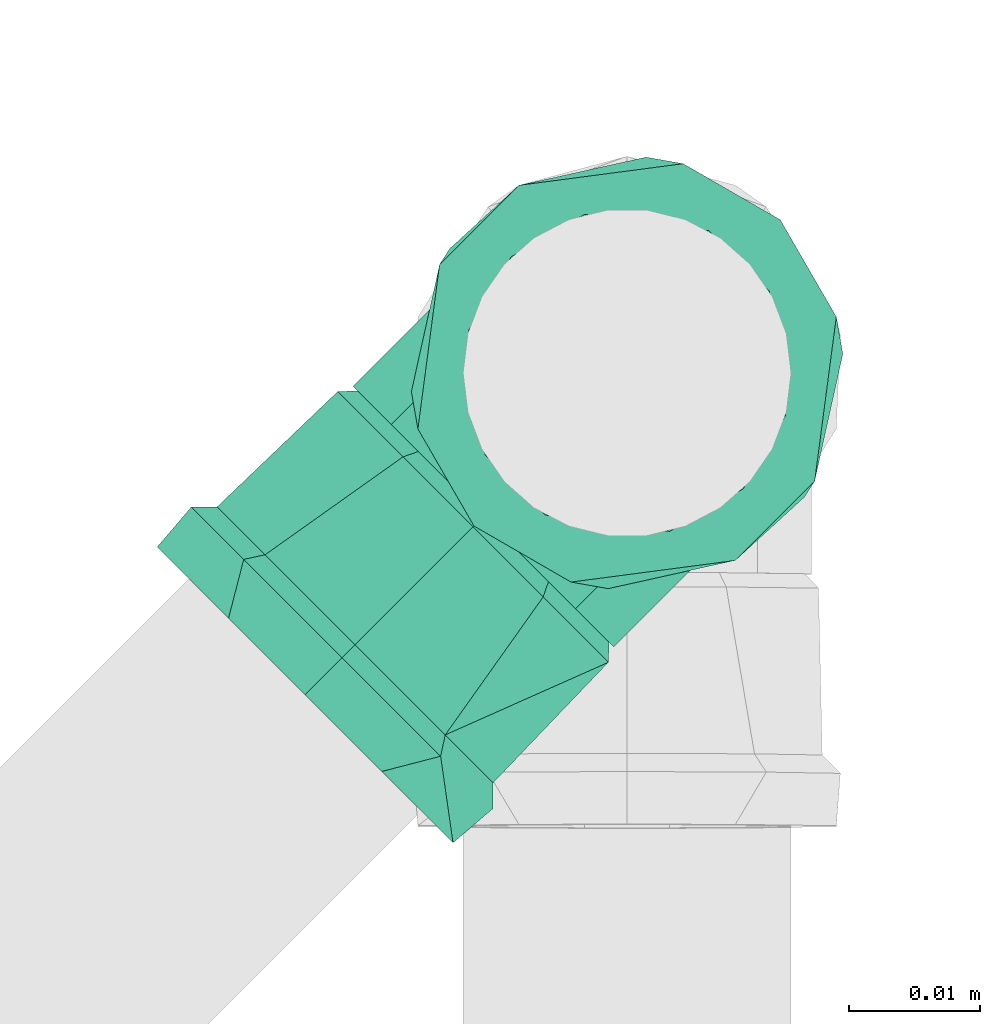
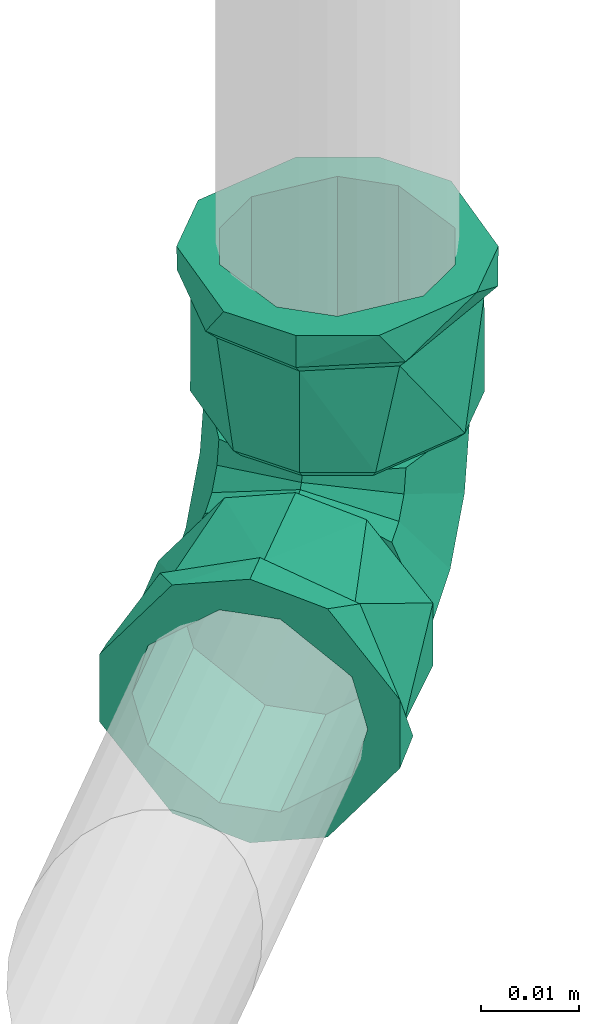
# One storey, part 386 of 589: 1 flow fitting.
"""IFC2X3 building model written with IfcOpenShell, lengths in millimetres."""

from ifc_helpers import new_model, entity, si_unit, converted_unit, derived_unit, direction, frame, origin, place, context, subcontext, project, spatial, faceted_brep, source, transform, mapped, material, type_object, type_shapes, element, save


model = new_model("IFC2X3")

# Units and contexts
model_context = context("Model", 3, precision=0.01, world=origin(), true_north=direction((6.123031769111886e-17, 1.0)))
body_context = subcontext(model_context, "Body", "Model", "MODEL_VIEW")
ifc_project = project(units=[si_unit("LENGTHUNIT", "METRE", prefix="MILLI"), si_unit("AREAUNIT", "SQUARE_METRE"), si_unit("VOLUMEUNIT", "CUBIC_METRE"), converted_unit("PLANEANGLEUNIT", "DEGREE", entity("IfcRatioMeasure", 0.017453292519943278), si_unit("PLANEANGLEUNIT", "RADIAN"), dimensions=[0, 0, 0, 0, 0, 0, 0]), si_unit("MASSUNIT", "GRAM", prefix="KILO"), derived_unit("MASSDENSITYUNIT", [(si_unit("MASSUNIT", "GRAM", prefix="KILO"), 1), (si_unit("LENGTHUNIT", "METRE"), -3)]), derived_unit("IONCONCENTRATIONUNIT", [(si_unit("MASSUNIT", "GRAM", prefix="KILO"), 1), (si_unit("LENGTHUNIT", "METRE"), -3)]), derived_unit("MOMENTOFINERTIAUNIT", [(si_unit("LENGTHUNIT", "METRE"), 4)]), si_unit("TIMEUNIT", "SECOND"), si_unit("FREQUENCYUNIT", "HERTZ"), si_unit("THERMODYNAMICTEMPERATUREUNIT", "DEGREE_CELSIUS"), derived_unit("THERMALTRANSMITTANCEUNIT", [(si_unit("MASSUNIT", "GRAM", prefix="KILO"), 1), (si_unit("THERMODYNAMICTEMPERATUREUNIT", "KELVIN"), -1), (si_unit("TIMEUNIT", "SECOND"), -3)]), derived_unit("THERMALCONDUCTANCEUNIT", [(si_unit("MASSUNIT", "GRAM", prefix="KILO"), 1), (si_unit("THERMODYNAMICTEMPERATUREUNIT", "KELVIN"), -1), (si_unit("TIMEUNIT", "SECOND"), -3), (si_unit("LENGTHUNIT", "METRE"), 1)]), derived_unit("VOLUMETRICFLOWRATEUNIT", [(si_unit("LENGTHUNIT", "METRE"), 3), (si_unit("TIMEUNIT", "SECOND"), -1)]), derived_unit("MASSFLOWRATEUNIT", [(si_unit("MASSUNIT", "GRAM", prefix="KILO"), 1), (si_unit("TIMEUNIT", "SECOND"), -1)]), derived_unit("ROTATIONALFREQUENCYUNIT", [(si_unit("TIMEUNIT", "SECOND"), -1)]), si_unit("ELECTRICCURRENTUNIT", "AMPERE"), si_unit("ELECTRICVOLTAGEUNIT", "VOLT"), si_unit("POWERUNIT", "WATT"), si_unit("FORCEUNIT", "NEWTON", prefix="KILO"), si_unit("ILLUMINANCEUNIT", "LUX"), si_unit("LUMINOUSFLUXUNIT", "LUMEN"), si_unit("LUMINOUSINTENSITYUNIT", "CANDELA"), derived_unit("USERDEFINED", [(si_unit("MASSUNIT", "GRAM", prefix="KILO"), -1), (si_unit("LENGTHUNIT", "METRE"), -2), (si_unit("TIMEUNIT", "SECOND"), 3), (si_unit("LUMINOUSFLUXUNIT", "LUMEN"), 1)]), derived_unit("USERDEFINED", [(si_unit("MASSUNIT", "GRAM", prefix="KILO"), 1), (si_unit("TIMEUNIT", "SECOND"), -3), (si_unit("LENGTHUNIT", "METRE"), 3), (si_unit("ELECTRICCURRENTUNIT", "AMPERE"), -2)]), derived_unit("SOUNDPOWERUNIT", [(si_unit("MASSUNIT", "GRAM", prefix="KILO"), 1), (si_unit("TIMEUNIT", "SECOND"), -3), (si_unit("LENGTHUNIT", "METRE"), 2)]), derived_unit("SOUNDPRESSUREUNIT", [(si_unit("MASSUNIT", "GRAM", prefix="KILO"), 1), (si_unit("LENGTHUNIT", "METRE"), -1), (si_unit("TIMEUNIT", "SECOND"), -2)]), derived_unit("LINEARVELOCITYUNIT", [(si_unit("LENGTHUNIT", "METRE"), 1), (si_unit("TIMEUNIT", "SECOND"), -1)]), si_unit("PRESSUREUNIT", "PASCAL"), derived_unit("USERDEFINED", [(si_unit("MASSUNIT", "GRAM", prefix="KILO"), 1), (si_unit("LENGTHUNIT", "METRE"), -2), (si_unit("TIMEUNIT", "SECOND"), -2)]), derived_unit("LINEARFORCEUNIT", [(si_unit("MASSUNIT", "GRAM", prefix="KILO"), 1), (si_unit("TIMEUNIT", "SECOND"), -2)]), derived_unit("PLANARFORCEUNIT", [(si_unit("MASSUNIT", "GRAM", prefix="KILO"), 1), (si_unit("LENGTHUNIT", "METRE"), -1), (si_unit("TIMEUNIT", "SECOND"), -2)]), derived_unit("SPECIFICHEATCAPACITYUNIT", [(si_unit("THERMODYNAMICTEMPERATUREUNIT", "KELVIN"), -1), (si_unit("LENGTHUNIT", "METRE"), 2), (si_unit("TIMEUNIT", "SECOND"), -2)]), derived_unit("HEATINGVALUEUNIT", [(si_unit("LENGTHUNIT", "METRE"), 2), (si_unit("TIMEUNIT", "SECOND"), -2)]), derived_unit("VAPORPERMEABILITYUNIT", [(si_unit("LENGTHUNIT", "METRE"), -1), (si_unit("TIMEUNIT", "SECOND"), 1)]), derived_unit("DYNAMICVISCOSITYUNIT", [(si_unit("MASSUNIT", "GRAM", prefix="KILO"), 1), (si_unit("TIMEUNIT", "SECOND"), -1), (si_unit("LENGTHUNIT", "METRE"), -1)]), derived_unit("THERMALEXPANSIONCOEFFICIENTUNIT", [(si_unit("THERMODYNAMICTEMPERATUREUNIT", "KELVIN"), -1)]), derived_unit("MODULUSOFELASTICITYUNIT", [(si_unit("MASSUNIT", "GRAM", prefix="KILO"), 1), (si_unit("LENGTHUNIT", "METRE"), -1), (si_unit("TIMEUNIT", "SECOND"), -2)]), derived_unit("ISOTHERMALMOISTURECAPACITYUNIT", [(si_unit("LENGTHUNIT", "METRE"), 3), (si_unit("MASSUNIT", "GRAM", prefix="KILO"), -1)]), derived_unit("MOISTUREDIFFUSIVITYUNIT", [(si_unit("TIMEUNIT", "SECOND"), -1), (si_unit("LENGTHUNIT", "METRE"), 2)])], contexts=[model_context])

# Site, building, storey
site_placement = place(None, origin())
site = spatial("IfcSite", under=ifc_project, at=site_placement, Name="Default", CompositionType="ELEMENT")
building_placement = place(site_placement, origin())
building = spatial("IfcBuilding", under=site, at=building_placement, CompositionType="ELEMENT")
storey_placement = place(building_placement, frame((0.0, 0.0, 100.0)))
storey = spatial("IfcBuildingStorey", under=building, at=storey_placement, Name="TÉRREO", CompositionType="ELEMENT", Elevation=100.0)

# Flow fitting
ifc_material = material(Name="PVC Marrom")
pipe_fitting_type = type_object("IfcPipeFittingType", Name="PVC Marrom Soldável_Joelho 45°_90°_Rodrigo MEP:Joelho", PredefinedType="NOTDEFINED", material=ifc_material)
shared_shape = source(origin(), body_context, "Body", "Brep", [
    faceted_brep([(3.908183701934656, -16.599981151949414, 14.585479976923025), (-3.908151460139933, -16.59998874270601, 14.585479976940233), (-13.07696747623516, -16.59999764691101, 7.54999999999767), (-15.09998387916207, -16.59999961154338, 0.0), (-13.076967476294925, -16.59999764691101, -7.550000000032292), (-3.908151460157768, -16.59998874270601, -14.585479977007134), (3.9081837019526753, -16.599981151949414, -14.585479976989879), (13.07699971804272, -16.599972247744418, -7.550000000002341), (15.100016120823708, -16.599970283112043, 0.0), (13.076999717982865, -16.599972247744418, 7.549999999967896), (12.1590117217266, -15.49997313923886, 7.01999999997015), (14.040015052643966, -15.499971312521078, 0.0), (12.159011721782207, -15.49997313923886, -7.0200000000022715), (3.633834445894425, -15.499981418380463, -13.561598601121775), (-3.633804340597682, -15.499988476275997, -13.56159860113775), (-12.158981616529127, -15.4999967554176, -7.020000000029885), (-14.039984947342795, -15.499998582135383, 0.0), (-12.15898161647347, -15.4999967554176, 7.019999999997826), (-3.6338043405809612, -15.499988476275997, 13.561598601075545), (3.633834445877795, -15.499981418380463, 13.561598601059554)], [[[0, 1, 2, 3, 4, 5, 6, 7, 8, 9]], [[10, 11, 12, 13, 14, 15, 16, 17, 18, 19]], [[12, 11, 8, 7]], [[13, 12, 7, 6]], [[6, 5, 14, 13]], [[15, 14, 5, 4]], [[16, 15, 4, 3]], [[17, 16, 3, 2]], [[18, 17, 2, 1]], [[1, 0, 19, 18]], [[10, 19, 0, 9]], [[11, 10, 9, 8]]]),
    faceted_brep([(-16.599984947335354, -3.908167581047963, 14.585479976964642), (-16.599984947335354, 3.908167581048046, 14.585479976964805), (-16.599984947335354, 13.076983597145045, 7.550000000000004), (-16.599984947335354, 15.100000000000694, 0.0), (-16.599984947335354, 13.0769835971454, -7.550000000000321), (-16.599984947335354, 3.9081675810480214, -14.585479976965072), (-16.599984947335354, -3.9081675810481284, -14.58547997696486), (-16.599984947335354, -13.076983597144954, -7.54999999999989), (-16.599984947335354, -15.099999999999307, 0.0), (-16.599984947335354, -13.076983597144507, 7.549999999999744), (-15.499984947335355, 3.633819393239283, 13.56159860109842), (-15.499984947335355, -3.6338193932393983, 13.561598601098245), (-15.499984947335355, -12.158996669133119, 7.019999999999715), (-15.499984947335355, -14.040000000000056, 0.0), (-15.499984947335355, -12.158996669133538, -7.019999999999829), (-15.499984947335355, -3.6338193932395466, -13.56159860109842), (-15.499984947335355, 3.63381939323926, -13.561598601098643), (-15.499984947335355, 12.158996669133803, -7.020000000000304), (-15.499984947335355, 14.039999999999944, 0.0), (-15.499984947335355, 12.15899666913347, 7.020000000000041)], [[[0, 1, 2, 3, 4, 5, 6, 7, 8, 9]], [[10, 11, 12, 13, 14, 15, 16, 17, 18, 19]], [[14, 13, 8, 7]], [[15, 14, 7, 6]], [[6, 5, 16, 15]], [[17, 16, 5, 4]], [[18, 17, 4, 3]], [[19, 18, 3, 2]], [[10, 19, 2, 1]], [[1, 0, 11, 10]], [[12, 11, 0, 9]], [[13, 12, 9, 8]]]),
    faceted_brep([(-34.69998494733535, 0.0, -12.5), (-34.69998494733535, 6.250000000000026, -10.825317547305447), (-34.69998494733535, 4.2705142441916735, -15.937776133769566), (-34.69998494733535, -4.270514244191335, -15.937776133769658), (-34.69998494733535, -6.250000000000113, -10.82531754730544), (-34.69998494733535, 14.289419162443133, -8.25000000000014), (-34.69998494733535, 12.074072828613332, -3.23523806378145), (-34.69998494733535, 16.5, 0.0), (-34.69998494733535, 12.074072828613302, 3.2352380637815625), (-34.69998494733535, 14.289419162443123, 8.249999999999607), (-34.69998494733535, 6.249999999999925, 10.825317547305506), (-34.69998494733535, 4.27051424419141, 15.937776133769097), (-34.69998494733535, 0.0, 12.5), (-34.69998494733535, -4.270514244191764, 15.937776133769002), (-34.69998494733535, -6.249999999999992, 10.825317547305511), (-34.69998494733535, -14.28941916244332, 8.249999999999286), (-34.69998494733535, -12.074072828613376, 3.2352380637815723), (-34.69998494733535, -16.5, 0.0), (-34.69998494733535, -12.074072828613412, -3.235238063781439), (-34.69998494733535, -14.289419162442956, -8.250000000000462), (-30.699984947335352, -16.5, 0.0), (-30.699984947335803, -12.639142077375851, 10.606700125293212), (-30.69998494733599, -4.885841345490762, 13.427814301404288), (-30.699984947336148, 2.8674593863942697, 16.24892847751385), (-30.699984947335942, 12.64180232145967, 10.603529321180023), (-30.699984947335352, 16.499999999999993, 0.0), (-30.69998494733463, 12.641802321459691, -10.603529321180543), (-30.69998494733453, 4.889209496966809, -13.426588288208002), (-30.69998494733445, -2.8633833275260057, -16.249647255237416), (-30.699984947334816, -12.639142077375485, -10.606700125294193), (-29.29998494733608, 11.56916454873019, 9.703835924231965), (-29.299984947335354, 15.099999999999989, 0.0), (-29.299984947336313, 2.624159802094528, 14.870231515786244), (-29.299984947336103, -4.471285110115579, 12.288484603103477), (-29.29998494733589, -11.566730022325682, 9.706737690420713), (-29.29998494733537, -15.099999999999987, 0.0), (-29.299984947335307, -11.566730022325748, -9.706737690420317), (-29.299984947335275, -2.620429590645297, -14.87088930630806), (-29.29998494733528, 4.4743674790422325, -12.287362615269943), (-29.299984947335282, 11.569164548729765, -9.703835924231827), (-16.599984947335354, 3.908167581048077, -14.585479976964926), (-16.599984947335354, 6.250000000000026, -10.825317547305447), (-16.599984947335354, 0.0, -12.5), (-16.599984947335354, 13.076983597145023, -7.549999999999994), (-16.599984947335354, -3.9081675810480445, -14.585479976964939), (-16.599984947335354, 12.074072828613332, -3.23523806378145), (-16.599984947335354, 15.099999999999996, 0.0), (-16.599984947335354, 12.074072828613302, 3.2352380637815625), (-16.599984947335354, 13.076983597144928, 7.550000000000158), (-16.599984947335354, 6.249999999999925, 10.825317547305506), (-16.599984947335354, 3.9081675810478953, 14.585479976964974), (-16.599984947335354, 0.0, 12.5), (-16.599984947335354, -3.9081675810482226, 14.58547997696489), (-16.599984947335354, -6.249999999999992, 10.825317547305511), (-16.599984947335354, -13.076983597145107, 7.549999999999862), (-16.599984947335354, -12.074072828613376, 3.2352380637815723), (-16.599984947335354, -15.100000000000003, 0.0), (-16.599984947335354, -12.074072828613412, -3.235238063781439), (-16.599984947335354, -13.076983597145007, -7.550000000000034), (-16.599984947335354, -6.250000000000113, -10.82531754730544)], [[[0, 1, 2]], [[2, 3, 0]], [[4, 0, 3]], [[5, 2, 1]], [[1, 6, 5]], [[6, 7, 5]], [[8, 7, 6]], [[7, 8, 9]], [[10, 9, 8]], [[9, 10, 11]], [[12, 11, 10]], [[13, 11, 12]], [[12, 14, 13]], [[13, 14, 15]], [[16, 15, 14]], [[15, 16, 17]], [[16, 18, 17]], [[19, 18, 4]], [[17, 18, 19]], [[3, 19, 4]], [[20, 15, 17]], [[20, 21, 15]], [[13, 15, 21]], [[13, 21, 22, 23]], [[9, 11, 24]], [[7, 9, 25]], [[23, 24, 11]], [[25, 9, 24]], [[13, 23, 11]], [[25, 5, 7]], [[25, 26, 5]], [[2, 5, 26]], [[2, 26, 27, 28]], [[19, 3, 29]], [[17, 19, 20]], [[28, 29, 3]], [[20, 19, 29]], [[2, 28, 3]], [[24, 30, 31, 25]], [[30, 24, 23, 32]], [[33, 32, 23, 22, 21, 34]], [[20, 35, 34, 21]], [[29, 36, 35, 20]], [[36, 29, 28, 37]], [[38, 37, 28, 27, 26, 39]], [[25, 31, 39, 26]], [[40, 41, 42]], [[41, 40, 43]], [[42, 44, 40]], [[43, 45, 41]], [[43, 46, 45]], [[45, 46, 47]], [[48, 47, 46]], [[47, 48, 49]], [[50, 49, 48]], [[49, 50, 51]], [[51, 50, 52]], [[52, 53, 51]], [[54, 53, 52]], [[53, 54, 55]], [[56, 55, 54]], [[56, 57, 55]], [[58, 57, 56]], [[59, 57, 58]], [[59, 58, 44]], [[44, 42, 59]], [[54, 34, 35]], [[56, 54, 35]], [[52, 34, 54]], [[52, 32, 33, 34]], [[30, 32, 50]], [[31, 30, 48]], [[50, 48, 30]], [[46, 31, 48]], [[52, 50, 32]], [[43, 39, 31]], [[46, 43, 31]], [[40, 39, 43]], [[40, 37, 38, 39]], [[36, 37, 44]], [[35, 36, 58]], [[44, 58, 36]], [[56, 35, 58]], [[40, 44, 37]], [[49, 51, 12, 10]], [[47, 49, 10, 8]], [[8, 6, 45, 47]], [[41, 45, 6, 1]], [[42, 41, 1, 0]], [[59, 42, 0, 4]], [[57, 59, 4, 18]], [[18, 16, 55, 57]], [[53, 55, 16, 14]], [[51, 53, 14, 12]]]),
    faceted_brep([(10.082395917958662, -0.729983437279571, 0.0), (6.521109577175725, -2.7860961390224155, 9.92777920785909), (9.927794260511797, -15.499975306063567, 9.92777920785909), (14.040015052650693, -15.499971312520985, 0.0), (-2.0765962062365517, -7.749991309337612, 14.04), (1.5052657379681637e-05, -15.499984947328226, 14.04), (-10.674301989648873, -12.713886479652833, 9.927779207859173), (-9.927764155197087, -15.499994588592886, 9.927779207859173), (-14.23558833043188, -14.769999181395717, 0.0), (-14.039984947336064, -15.499998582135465, 0.0), (-10.674301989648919, -12.71388647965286, -9.92777920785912), (-9.92776415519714, -15.499994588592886, -9.92777920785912), (-2.0765962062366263, -7.749991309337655, -14.04), (1.5052657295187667e-05, -15.499984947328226, -14.04), (6.521109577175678, -2.786096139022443, -9.927779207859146), (9.927794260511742, -15.499975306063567, -9.927779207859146), (-0.7299932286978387, 10.082395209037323, 0.0), (-2.7861024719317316, 6.521106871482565, 9.92777920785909), (-7.749989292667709, -2.076603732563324, 14.04), (-12.71387611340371, -10.674314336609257, 9.927779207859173), (-14.769985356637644, -14.235602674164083, 0.0), (-12.713876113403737, -10.674314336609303, -9.92777920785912), (-7.749989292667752, -2.076603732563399, -14.04), (-2.786102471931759, 6.521106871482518, -9.927779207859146), (-15.499984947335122, 14.03999999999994, 0.0), (-15.499984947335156, 9.927779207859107, 9.92777920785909), (-15.499984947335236, 0.0, 14.04), (-15.499984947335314, -9.927779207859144, 9.927779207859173), (-15.499984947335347, -14.040000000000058, 0.0), (-15.499984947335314, -9.927779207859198, -9.92777920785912), (-15.499984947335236, 0.0, -14.04), (-15.499984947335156, 9.92777920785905, -9.927779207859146)], [[[0, 1, 2, 3]], [[1, 4, 5, 2]], [[4, 6, 7, 5]], [[6, 8, 9, 7]], [[8, 10, 11, 9]], [[10, 12, 13, 11]], [[12, 14, 15, 13]], [[14, 0, 3, 15]], [[16, 17, 1, 0]], [[17, 18, 4, 1]], [[18, 19, 6, 4]], [[19, 20, 8, 6]], [[20, 21, 10, 8]], [[21, 22, 12, 10]], [[22, 23, 14, 12]], [[23, 16, 0, 14]], [[24, 25, 17, 16]], [[25, 26, 18, 17]], [[26, 27, 19, 18]], [[27, 28, 20, 19]], [[28, 29, 21, 20]], [[29, 30, 22, 21]], [[30, 31, 23, 22]], [[31, 24, 16, 23]], [[3, 2, 5, 7, 9, 11, 13, 15]], [[31, 30, 29, 28, 27, 26, 25, 24]]]),
    faceted_brep([(-3.908151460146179, -16.59998874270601, -14.585479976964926), (-6.2499838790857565, -16.599991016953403, -10.825317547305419), (1.6120911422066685e-05, -16.599984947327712, -12.5), (-13.076967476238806, -16.59999764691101, -7.549999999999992), (3.908183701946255, -16.599981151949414, -14.585479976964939), (-12.07405670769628, -16.599996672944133, -3.2352380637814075), (-15.099983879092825, -16.59999961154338, 0.0), (-12.07405670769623, -16.599996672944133, 3.235238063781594), (-13.07696747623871, -16.59999764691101, 7.550000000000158), (-6.2499838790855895, -16.599991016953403, 10.825317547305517), (-3.908151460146, -16.59998874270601, 14.585479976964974), (1.6120911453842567e-05, -16.599984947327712, 12.5), (3.9081837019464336, -16.599981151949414, 14.58547997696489), (6.250016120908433, -16.59997887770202, 10.8253175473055), (13.076999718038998, -16.599972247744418, 7.549999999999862), (12.074088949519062, -16.59997322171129, 3.2352380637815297), (15.100016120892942, -16.599970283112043, 0.0), (12.074088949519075, -16.59997322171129, -3.2352380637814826), (13.0769997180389, -16.599972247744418, -7.550000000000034), (6.250016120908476, -16.59997887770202, -10.825317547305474), (11.566758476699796, -29.299973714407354, 9.706737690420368), (15.100028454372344, -29.299970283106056, 0.0), (2.6204580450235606, -29.299982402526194, 14.870889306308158), (-11.569136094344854, -29.299996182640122, 9.703835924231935), (-4.474339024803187, -29.29998929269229, 12.28736261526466), (-15.099971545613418, -29.299999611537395, 0.0), (-11.569136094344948, -29.299996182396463, -9.703835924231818), (-2.624131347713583, -29.299987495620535, -14.870231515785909), (11.56675847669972, -29.299973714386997, -9.706737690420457), (4.471313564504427, -29.299980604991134, -12.288484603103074), (2.8674892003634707, -30.69998216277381, 16.248928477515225), (-4.885811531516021, -30.699989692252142, 13.427814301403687), (-16.499970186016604, -30.70000097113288, 0.0), (-12.639112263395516, -30.699997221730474, 10.606700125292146), (12.64183213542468, -30.699972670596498, 10.603529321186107), (16.500029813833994, -30.69996892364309, 0.0), (12.641832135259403, -30.69997267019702, -10.603529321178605), (4.889239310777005, -30.699980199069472, -13.426588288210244), (-2.863353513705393, -30.699987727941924, -16.249647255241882), (-12.639112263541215, -30.699997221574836, -10.606700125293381), (3.369854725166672e-05, -34.69998494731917, -12.5), (-6.249966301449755, -34.699991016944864, -10.825317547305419), (-4.2704805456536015, -34.69998909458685, -15.937776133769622), (4.270547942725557, -34.6999808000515, -15.937776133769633), (6.250033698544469, -34.69997887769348, -10.825317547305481), (-14.289385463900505, -34.699998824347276, -8.249999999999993), (-12.074039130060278, -34.69999667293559, -3.2352380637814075), (-16.49996630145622, -34.70000097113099, 0.0), (-12.074039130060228, -34.69999667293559, 3.235238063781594), (-14.289385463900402, -34.699998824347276, 8.250000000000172), (-6.2499663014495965, -34.699991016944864, 10.825317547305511), (-4.2704805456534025, -34.69998909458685, 15.937776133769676), (3.3698547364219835e-05, -34.69998494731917, 12.5), (4.270547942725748, -34.6999808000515, 15.937776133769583), (6.250033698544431, -34.69997887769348, 10.825317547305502), (14.289452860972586, -34.69997107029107, 8.24999999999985), (12.074106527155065, -34.699973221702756, 3.2352380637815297), (16.50003369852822, -34.699968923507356, 0.0), (12.074106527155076, -34.699973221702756, -3.235238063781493), (14.289452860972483, -34.69997107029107, -8.250000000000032)], [[[0, 1, 2]], [[1, 0, 3]], [[2, 4, 0]], [[3, 5, 1]], [[3, 6, 5]], [[5, 6, 7]], [[8, 7, 6]], [[7, 8, 9]], [[10, 9, 8]], [[9, 10, 11]], [[11, 10, 12]], [[12, 13, 11]], [[14, 13, 12]], [[13, 14, 15]], [[16, 15, 14]], [[16, 17, 15]], [[18, 17, 16]], [[19, 17, 18]], [[19, 18, 4]], [[4, 2, 19]], [[14, 20, 21]], [[16, 14, 21]], [[12, 20, 14]], [[12, 22, 20]], [[10, 23, 24, 22]], [[25, 23, 8]], [[10, 8, 23]], [[6, 25, 8]], [[12, 10, 22]], [[3, 26, 25]], [[6, 3, 25]], [[0, 26, 3]], [[0, 27, 26]], [[4, 28, 29, 27]], [[21, 28, 18]], [[4, 18, 28]], [[16, 21, 18]], [[0, 4, 27]], [[30, 22, 31]], [[32, 23, 25]], [[33, 23, 32]], [[31, 24, 33]], [[34, 21, 20]], [[24, 23, 33]], [[20, 30, 34]], [[21, 34, 35]], [[24, 31, 22]], [[22, 30, 20]], [[36, 28, 21]], [[21, 35, 36]], [[36, 37, 28]], [[37, 29, 28]], [[37, 38, 29]], [[32, 25, 26]], [[27, 39, 26]], [[32, 26, 39]], [[27, 29, 38]], [[38, 39, 27]], [[40, 41, 42]], [[42, 43, 40]], [[44, 40, 43]], [[45, 42, 41]], [[41, 46, 45]], [[46, 47, 45]], [[48, 47, 46]], [[47, 48, 49]], [[50, 49, 48]], [[49, 50, 51]], [[52, 51, 50]], [[53, 51, 52]], [[52, 54, 53]], [[53, 54, 55]], [[56, 55, 54]], [[55, 56, 57]], [[56, 58, 57]], [[59, 58, 44]], [[57, 58, 59]], [[43, 59, 44]], [[35, 55, 57]], [[35, 34, 55]], [[53, 55, 34]], [[30, 53, 34]], [[49, 51, 33]], [[47, 49, 32]], [[51, 30, 31, 33]], [[32, 49, 33]], [[53, 30, 51]], [[32, 45, 47]], [[32, 39, 45]], [[42, 45, 39]], [[38, 42, 39]], [[59, 43, 36]], [[57, 59, 35]], [[43, 38, 37, 36]], [[35, 59, 36]], [[42, 38, 43]], [[9, 11, 52, 50]], [[7, 9, 50, 48]], [[48, 46, 5, 7]], [[1, 5, 46, 41]], [[2, 1, 41, 40]], [[19, 2, 40, 44]], [[17, 19, 44, 58]], [[58, 56, 15, 17]], [[13, 15, 56, 54]], [[11, 13, 54, 52]]]),
])
type_shapes(pipe_fitting_type, [shared_shape])
flow_fitting_placement = place(storey_placement, frame((384.83992247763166, -5725.439241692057, -37.357145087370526), z_axis=(0.7071067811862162, -0.7071067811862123, 9.711401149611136e-07), x_axis=(0.0, -1.3733995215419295e-06, -1.0)))
element("IfcFlowFitting", 1, at=flow_fitting_placement, inside=storey, type_object=pipe_fitting_type, material=ifc_material, Name="PVC Marrom Soldável_Joelho 45°_90°_Rodrigo MEP:Joelho", ObjectType="PVC Marrom Soldável_Joelho 45°_90°_Rodrigo MEP:Joelho", context=body_context, shape_type="MappedRepresentation", body=[
    mapped(shared_shape, transform((0.0, 0.0, 0.0), scale=1.0)),
])

save(model, "model.ifc")
